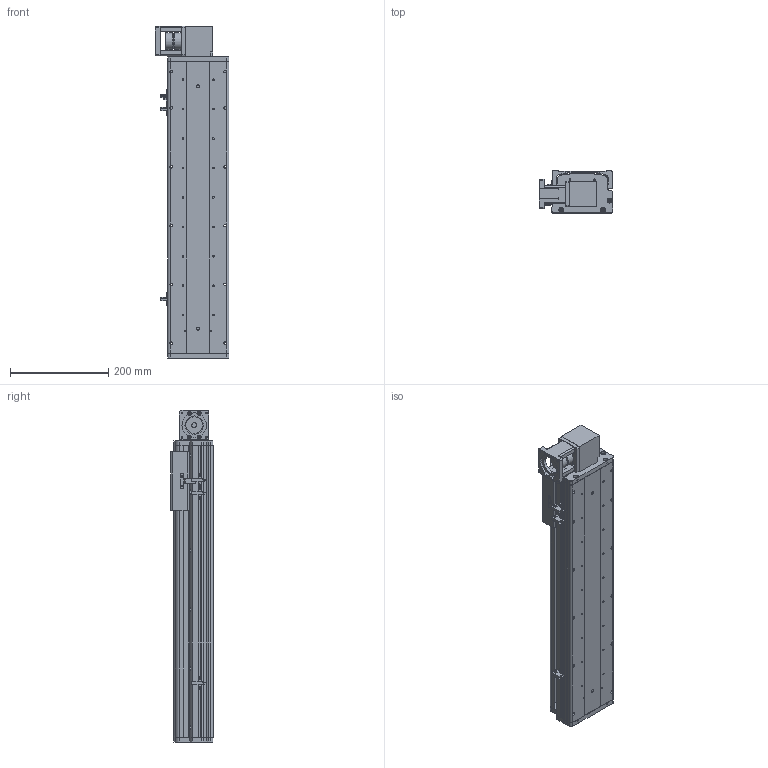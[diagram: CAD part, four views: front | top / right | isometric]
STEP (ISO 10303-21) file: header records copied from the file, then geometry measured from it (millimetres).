
FILE_DESCRIPTION (( 'STEP AP214' ), '1' );
FILE_NAME ('KSD125B-S400-MRT-CM.STEP', '2017-08-07T07:21:00', ( '微软用户' ), ( '微软中国' ), 'SwSTEP 2.0', 'SolidWorks 2014', '' );
FILE_SCHEMA (( 'AUTOMOTIVE_DESIGN' ));
Length unit declared in the file: millimetre
Products named in the file (15): 覜茼え68遵圉猾敕; U倰嫖萇假蚾璃; U倰嫖萇EEㄜSX672; 125模组400行程同步带-底板; KSD125模组同步带-防撞垫1; 100宽安装板同步带带电机座400W,86; 100宽马达安装板同步带右; 前端板-125宽模组同步带; 125模组同步带-尾端板1; KSD125模组同步带-滑动座1; KSD125B-S400-MRT-CM; KSD125模组400行程同步带-防尘盖; KSD125模组同步带-防撞垫2; CS-34X32-10X14; 100遵鎮湛假蚾啣1 
Assembly tree (18 placements, depth 2):
  KSD125B-S400-MRT-CM
    KSD125模组同步带-滑动座1
    125模组同步带-尾端板1
    前端板-125宽模组同步带
    100宽马达安装板同步带右
    100宽安装板同步带带电机座400W,86
    KSD125模组同步带-防撞垫1
    U倰嫖萇EEㄜSX672  x3
    U倰嫖萇假蚾璃  x3
    覜茼え68遵圉猾敕
    100遵鎮湛假蚾啣1 
    CS-34X32-10X14
    KSD125模组同步带-防撞垫2
    125模组400行程同步带-底板
    KSD125模组400行程同步带-防尘盖
Bounding box: 150.5 x 86 x 677 mm (x, y, z)
Volume: 2306496.1 mm3; surface area: 744407.1 mm2
Topology: 18 solids, 18 shells, 1276 faces, 3622 edges, 2369 vertices
Faces by surface type: cylinder 703, plane 523, cone 50
Entity records: 40629 total; most frequent: CARTESIAN_POINT 8910, DIRECTION 6223, ORIENTED_EDGE 5936, EDGE_CURVE 2968, AXIS2_PLACEMENT_3D 2344, VERTEX_POINT 1961, LINE 1535, VECTOR 1535
